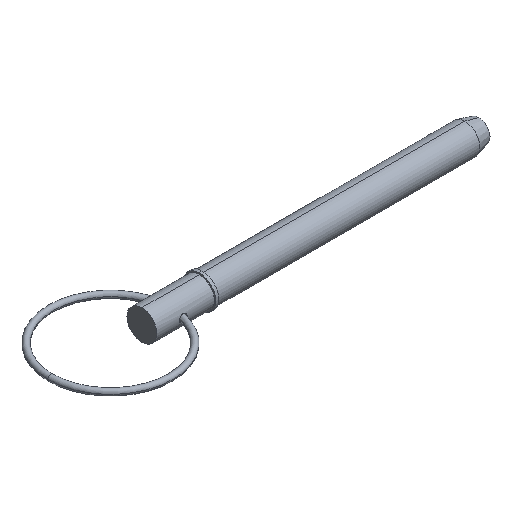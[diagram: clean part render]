
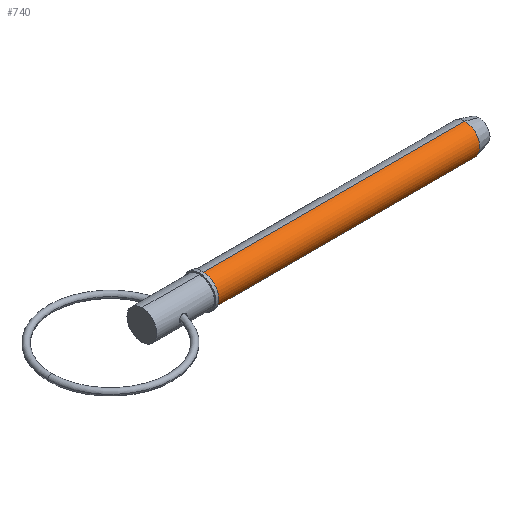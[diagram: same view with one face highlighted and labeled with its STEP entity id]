
A CAD part, isometric view. The second image highlights one B-rep face of the part: STEP entity #740.
In plain terms, the highlighted cylindrical face has radius 6.35 mm (diameter 12.7 mm), a partial arc.
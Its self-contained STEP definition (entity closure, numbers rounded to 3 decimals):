
#12 = DIRECTION ( 'NONE',  ( 0., 0., -1. ) ) ;
#15 = EDGE_CURVE ( 'NONE', #424, #160, #1036, .T. ) ;
#42 = CIRCLE ( 'NONE', #166, 6.35 ) ;
#61 = EDGE_CURVE ( 'NONE', #312, #382, #463, .T. ) ;
#78 = CYLINDRICAL_SURFACE ( 'NONE', #527, 6.35 ) ;
#82 = CARTESIAN_POINT ( 'NONE',  ( 137.255, 0., 6.35 ) ) ;
#95 = EDGE_CURVE ( 'NONE', #160, #382, #42, .T. ) ;
#97 = ORIENTED_EDGE ( 'NONE', *, *, #61, .T. ) ;
#160 = VERTEX_POINT ( 'NONE', #82 ) ;
#166 = AXIS2_PLACEMENT_3D ( 'NONE', #571, #574, #12 ) ;
#206 = DIRECTION ( 'NONE',  ( 1., 0., 0. ) ) ;
#228 = EDGE_LOOP ( 'NONE', ( #391, #914, #97, #979 ) ) ;
#308 = DIRECTION ( 'NONE',  ( 1., 0., 0. ) ) ;
#312 = VERTEX_POINT ( 'NONE', #938 ) ;
#357 = VECTOR ( 'NONE', #308, 1000. ) ;
#382 = VERTEX_POINT ( 'NONE', #785 ) ;
#391 = ORIENTED_EDGE ( 'NONE', *, *, #15, .F. ) ;
#396 = CARTESIAN_POINT ( 'NONE',  ( 0., 0., 0. ) ) ;
#424 = VERTEX_POINT ( 'NONE', #491 ) ;
#444 = CARTESIAN_POINT ( 'NONE',  ( 0., 0., 6.35 ) ) ;
#456 = AXIS2_PLACEMENT_3D ( 'NONE', #934, #1034, #609 ) ;
#463 = LINE ( 'NONE', #796, #357 ) ;
#491 = CARTESIAN_POINT ( 'NONE',  ( 25.7, 0., 6.35 ) ) ;
#511 = EDGE_CURVE ( 'NONE', #424, #312, #954, .T. ) ;
#527 = AXIS2_PLACEMENT_3D ( 'NONE', #396, #968, #564 ) ;
#547 = VECTOR ( 'NONE', #206, 1000. ) ;
#564 = DIRECTION ( 'NONE',  ( 0., 0., -1. ) ) ;
#571 = CARTESIAN_POINT ( 'NONE',  ( 137.255, 0., 0. ) ) ;
#574 = DIRECTION ( 'NONE',  ( 1., 0., 0. ) ) ;
#609 = DIRECTION ( 'NONE',  ( 0., 0., -1. ) ) ;
#740 = ADVANCED_FACE ( 'NONE', ( #809 ), #78, .T. ) ;
#785 = CARTESIAN_POINT ( 'NONE',  ( 137.255, 0., -6.35 ) ) ;
#796 = CARTESIAN_POINT ( 'NONE',  ( 0., 0., -6.35 ) ) ;
#809 = FACE_OUTER_BOUND ( 'NONE', #228, .T. ) ;
#914 = ORIENTED_EDGE ( 'NONE', *, *, #511, .T. ) ;
#934 = CARTESIAN_POINT ( 'NONE',  ( 25.7, 0., 0. ) ) ;
#938 = CARTESIAN_POINT ( 'NONE',  ( 25.7, 0., -6.35 ) ) ;
#954 = CIRCLE ( 'NONE', #456, 6.35 ) ;
#968 = DIRECTION ( 'NONE',  ( 1., 0., 0. ) ) ;
#979 = ORIENTED_EDGE ( 'NONE', *, *, #95, .F. ) ;
#1034 = DIRECTION ( 'NONE',  ( 1., 0., 0. ) ) ;
#1036 = LINE ( 'NONE', #444, #547 ) ;
